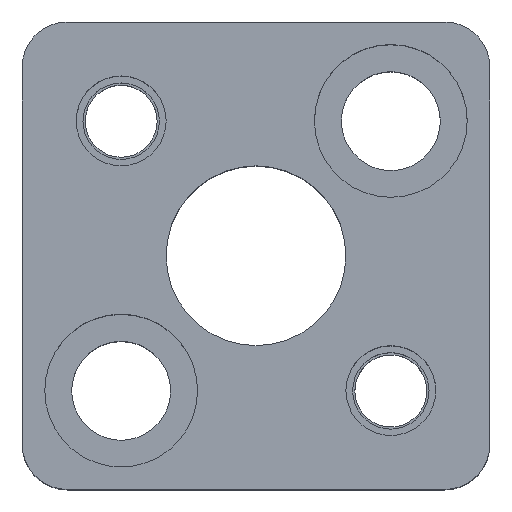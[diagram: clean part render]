
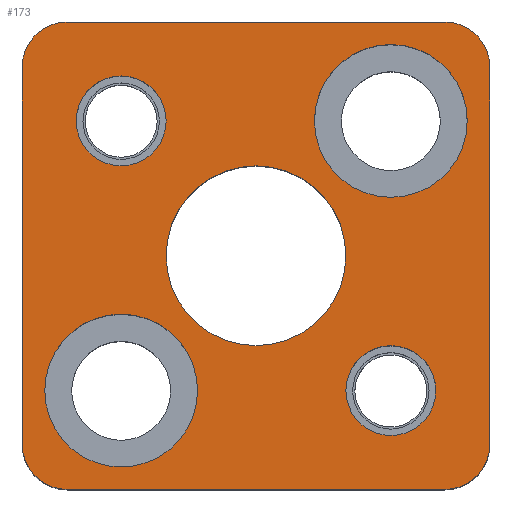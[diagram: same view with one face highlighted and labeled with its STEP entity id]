
A CAD part, top view. The second image highlights one B-rep face of the part: STEP entity #173.
In plain terms, the highlighted planar face has unit normal (0, 0, 1).
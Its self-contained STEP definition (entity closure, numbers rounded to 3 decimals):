
#112=PLANE('',#991);
#133=FACE_BOUND('',#298,.T.);
#134=FACE_BOUND('',#299,.T.);
#135=FACE_BOUND('',#300,.T.);
#136=FACE_BOUND('',#301,.T.);
#137=FACE_BOUND('',#302,.T.);
#138=FACE_BOUND('',#303,.T.);
#173=ADVANCED_FACE('',(#133,#134,#135,#136,#137,#138),#112,.T.);
#298=EDGE_LOOP('',(#490,#491,#492,#493,#494,#495,#496,#497));
#299=EDGE_LOOP('',(#498,#499));
#300=EDGE_LOOP('',(#500,#501));
#301=EDGE_LOOP('',(#502,#503));
#302=EDGE_LOOP('',(#504,#505));
#303=EDGE_LOOP('',(#506,#507));
#360=CIRCLE('',#955,5.);
#362=CIRCLE('',#958,5.);
#364=CIRCLE('',#962,5.);
#366=CIRCLE('',#965,5.);
#376=CIRCLE('',#981,5.);
#377=CIRCLE('',#982,5.);
#378=CIRCLE('',#983,5.);
#379=CIRCLE('',#984,5.);
#380=CIRCLE('',#985,8.5);
#381=CIRCLE('',#986,8.5);
#382=CIRCLE('',#987,8.5);
#383=CIRCLE('',#988,8.5);
#384=CIRCLE('',#989,10.);
#385=CIRCLE('',#990,10.);
#490=ORIENTED_EDGE('',*,*,#762,.T.);
#491=ORIENTED_EDGE('',*,*,#763,.T.);
#492=ORIENTED_EDGE('',*,*,#764,.T.);
#493=ORIENTED_EDGE('',*,*,#765,.T.);
#494=ORIENTED_EDGE('',*,*,#766,.T.);
#495=ORIENTED_EDGE('',*,*,#767,.T.);
#496=ORIENTED_EDGE('',*,*,#768,.T.);
#497=ORIENTED_EDGE('',*,*,#769,.T.);
#498=ORIENTED_EDGE('',*,*,#770,.F.);
#499=ORIENTED_EDGE('',*,*,#771,.F.);
#500=ORIENTED_EDGE('',*,*,#772,.F.);
#501=ORIENTED_EDGE('',*,*,#773,.F.);
#502=ORIENTED_EDGE('',*,*,#748,.F.);
#503=ORIENTED_EDGE('',*,*,#744,.F.);
#504=ORIENTED_EDGE('',*,*,#742,.F.);
#505=ORIENTED_EDGE('',*,*,#738,.F.);
#506=ORIENTED_EDGE('',*,*,#774,.T.);
#507=ORIENTED_EDGE('',*,*,#775,.T.);
#654=VERTEX_POINT('',#1377);
#655=VERTEX_POINT('',#1378);
#658=VERTEX_POINT('',#1390);
#659=VERTEX_POINT('',#1391);
#670=VERTEX_POINT('',#1427);
#671=VERTEX_POINT('',#1428);
#672=VERTEX_POINT('',#1430);
#673=VERTEX_POINT('',#1432);
#674=VERTEX_POINT('',#1434);
#675=VERTEX_POINT('',#1436);
#676=VERTEX_POINT('',#1438);
#677=VERTEX_POINT('',#1440);
#678=VERTEX_POINT('',#1443);
#679=VERTEX_POINT('',#1444);
#680=VERTEX_POINT('',#1447);
#681=VERTEX_POINT('',#1448);
#682=VERTEX_POINT('',#1451);
#683=VERTEX_POINT('',#1452);
#738=EDGE_CURVE('',#654,#655,#360,.T.);
#742=EDGE_CURVE('',#655,#654,#362,.T.);
#744=EDGE_CURVE('',#658,#659,#364,.T.);
#748=EDGE_CURVE('',#659,#658,#366,.T.);
#762=EDGE_CURVE('',#670,#671,#376,.T.);
#763=EDGE_CURVE('',#671,#672,#842,.T.);
#764=EDGE_CURVE('',#672,#673,#377,.T.);
#765=EDGE_CURVE('',#673,#674,#843,.T.);
#766=EDGE_CURVE('',#674,#675,#378,.T.);
#767=EDGE_CURVE('',#675,#676,#844,.T.);
#768=EDGE_CURVE('',#676,#677,#379,.T.);
#769=EDGE_CURVE('',#677,#670,#845,.T.);
#770=EDGE_CURVE('',#678,#679,#380,.T.);
#771=EDGE_CURVE('',#679,#678,#381,.T.);
#772=EDGE_CURVE('',#680,#681,#382,.T.);
#773=EDGE_CURVE('',#681,#680,#383,.T.);
#774=EDGE_CURVE('',#682,#683,#384,.T.);
#775=EDGE_CURVE('',#683,#682,#385,.T.);
#842=LINE('',#1429,#891);
#843=LINE('',#1433,#892);
#844=LINE('',#1437,#893);
#845=LINE('',#1441,#894);
#891=VECTOR('',#1174,1.);
#892=VECTOR('',#1177,1.);
#893=VECTOR('',#1180,1.);
#894=VECTOR('',#1183,1.);
#955=AXIS2_PLACEMENT_3D('',#1376,#1112,#1113);
#958=AXIS2_PLACEMENT_3D('',#1385,#1120,#1121);
#962=AXIS2_PLACEMENT_3D('',#1389,#1128,#1129);
#965=AXIS2_PLACEMENT_3D('',#1398,#1136,#1137);
#981=AXIS2_PLACEMENT_3D('',#1426,#1172,#1173);
#982=AXIS2_PLACEMENT_3D('',#1431,#1175,#1176);
#983=AXIS2_PLACEMENT_3D('',#1435,#1178,#1179);
#984=AXIS2_PLACEMENT_3D('',#1439,#1181,#1182);
#985=AXIS2_PLACEMENT_3D('',#1442,#1184,#1185);
#986=AXIS2_PLACEMENT_3D('',#1445,#1186,#1187);
#987=AXIS2_PLACEMENT_3D('',#1446,#1188,#1189);
#988=AXIS2_PLACEMENT_3D('',#1449,#1190,#1191);
#989=AXIS2_PLACEMENT_3D('',#1450,#1192,#1193);
#990=AXIS2_PLACEMENT_3D('',#1453,#1194,#1195);
#991=AXIS2_PLACEMENT_3D('',#1454,#1196,#1197);
#1112=DIRECTION('',(0.,0.,1.));
#1113=DIRECTION('',(-1.,0.,0.));
#1120=DIRECTION('',(0.,0.,1.));
#1121=DIRECTION('',(1.,0.,0.));
#1128=DIRECTION('',(0.,0.,1.));
#1129=DIRECTION('',(-1.,0.,0.));
#1136=DIRECTION('',(0.,0.,1.));
#1137=DIRECTION('',(1.,0.,0.));
#1172=DIRECTION('',(0.,0.,1.));
#1173=DIRECTION('',(-0.707,0.707,0.));
#1174=DIRECTION('',(0.,1.,0.));
#1175=DIRECTION('',(0.,0.,1.));
#1176=DIRECTION('',(-0.707,-0.707,0.));
#1177=DIRECTION('',(-1.,0.,0.));
#1178=DIRECTION('',(0.,0.,1.));
#1179=DIRECTION('',(0.707,-0.707,0.));
#1180=DIRECTION('',(0.,-1.,0.));
#1181=DIRECTION('',(0.,0.,1.));
#1182=DIRECTION('',(0.707,0.707,0.));
#1183=DIRECTION('',(1.,0.,0.));
#1184=DIRECTION('',(0.,0.,1.));
#1185=DIRECTION('',(1.,0.,0.));
#1186=DIRECTION('',(0.,0.,1.));
#1187=DIRECTION('',(-1.,0.,0.));
#1188=DIRECTION('',(0.,0.,1.));
#1189=DIRECTION('',(1.,0.,0.));
#1190=DIRECTION('',(0.,0.,1.));
#1191=DIRECTION('',(-1.,0.,0.));
#1192=DIRECTION('',(0.,0.,-1.));
#1193=DIRECTION('',(-1.,0.,0.));
#1194=DIRECTION('',(0.,0.,-1.));
#1195=DIRECTION('',(1.,0.,0.));
#1196=DIRECTION('',(0.,0.,1.));
#1197=DIRECTION('',(-1.,0.,0.));
#1376=CARTESIAN_POINT('',(15.,-15.,35.));
#1377=CARTESIAN_POINT('',(15.,-20.,35.));
#1378=CARTESIAN_POINT('',(15.,-10.,35.));
#1385=CARTESIAN_POINT('',(15.,-15.,35.));
#1389=CARTESIAN_POINT('',(-15.,15.,35.));
#1390=CARTESIAN_POINT('',(-15.,10.,35.));
#1391=CARTESIAN_POINT('',(-15.,20.,35.));
#1398=CARTESIAN_POINT('',(-15.,15.,35.));
#1426=CARTESIAN_POINT('',(21.,-21.,35.));
#1427=CARTESIAN_POINT('',(21.,-26.,35.));
#1428=CARTESIAN_POINT('',(26.,-21.,35.));
#1429=CARTESIAN_POINT('',(26.,21.,35.));
#1430=CARTESIAN_POINT('',(26.,21.,35.));
#1431=CARTESIAN_POINT('',(21.,21.,35.));
#1432=CARTESIAN_POINT('',(21.,26.,35.));
#1433=CARTESIAN_POINT('',(-21.,26.,35.));
#1434=CARTESIAN_POINT('',(-21.,26.,35.));
#1435=CARTESIAN_POINT('',(-21.,21.,35.));
#1436=CARTESIAN_POINT('',(-26.,21.,35.));
#1437=CARTESIAN_POINT('',(-26.,21.,35.));
#1438=CARTESIAN_POINT('',(-26.,-21.,35.));
#1439=CARTESIAN_POINT('',(-21.,-21.,35.));
#1440=CARTESIAN_POINT('',(-21.,-26.,35.));
#1441=CARTESIAN_POINT('',(-21.,-26.,35.));
#1442=CARTESIAN_POINT('',(15.,15.,35.));
#1443=CARTESIAN_POINT('',(15.,23.5,35.));
#1444=CARTESIAN_POINT('',(15.,6.5,35.));
#1445=CARTESIAN_POINT('',(15.,15.,35.));
#1446=CARTESIAN_POINT('',(-15.,-15.,35.));
#1447=CARTESIAN_POINT('',(-15.,-6.5,35.));
#1448=CARTESIAN_POINT('',(-15.,-23.5,35.));
#1449=CARTESIAN_POINT('',(-15.,-15.,35.));
#1450=CARTESIAN_POINT('',(0.,0.,35.));
#1451=CARTESIAN_POINT('',(0.,10.,35.));
#1452=CARTESIAN_POINT('',(0.,-10.,35.));
#1453=CARTESIAN_POINT('',(0.,0.,35.));
#1454=CARTESIAN_POINT('',(21.,-26.,35.));
